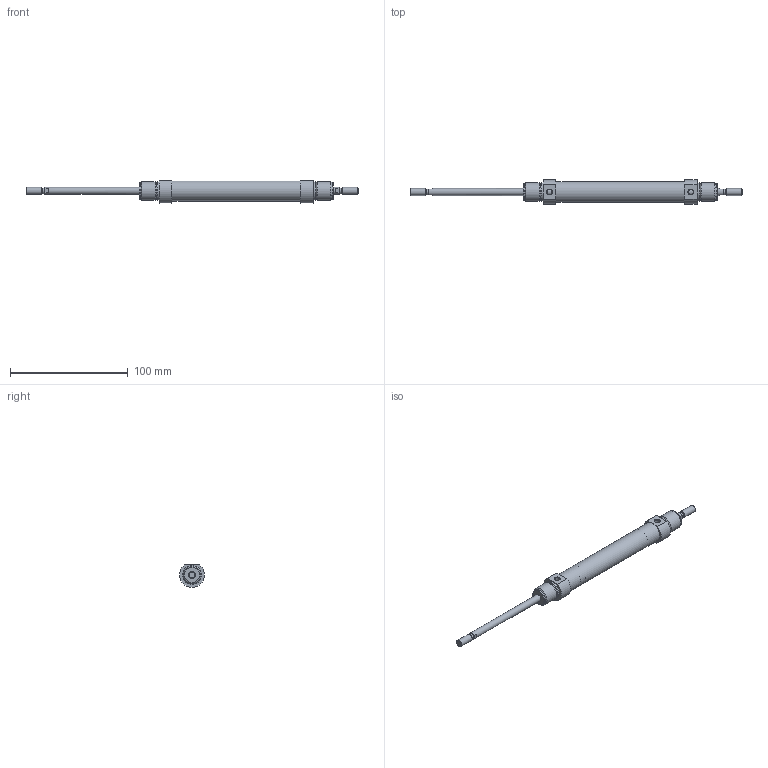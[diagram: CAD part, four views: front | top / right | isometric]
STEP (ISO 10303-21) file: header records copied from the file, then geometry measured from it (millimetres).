
FILE_DESCRIPTION( ( 'STEP AP203' ), '1' );
FILE_NAME( '//expscmdclustefs.cadenas.external/client_exchange/iodir/jobs/output/wkb68413043_no0/STEP/M101-016-0075-M__0__2_03.stp', ' ', ( ' ' ), ( ' ' ), 'PSStep 15.0.47', 'PARTsolutions', ' ' );
FILE_SCHEMA( ( 'CONFIG_CONTROL_DESIGN' ) );
Length unit declared in the file: millimetre
Products named in the file (3): M101-016-0075-M [0]; HI_M101-016-0075-M-[0]-z; HI_M101-016-0075-M-[0]-k
Assembly tree (2 placements, depth 2):
  M101-016-0075-M [0]
    HI_M101-016-0075-M-[0]-z
    HI_M101-016-0075-M-[0]-k
Bounding box: 282 x 20.94 x 19.09 mm (x, y, z)
Volume: 29546.7 mm3; surface area: 21869.8 mm2
Topology: 2 solids, 2 shells, 67 faces, 135 edges, 82 vertices
Faces by surface type: plane 28, cylinder 23, cone 14, torus 2
Full cylindrical faces by diameter (mm): 4.134 x2, 4.773 x2, 6 x6, 14.16 x4, 16 x6, 17.3 x1
Entity records: 1730 total; most frequent: CARTESIAN_POINT 334, DIRECTION 292, ORIENTED_EDGE 196, AXIS2_PLACEMENT_3D 132, EDGE_LOOP 116, EDGE_CURVE 98, FACE_OUTER_BOUND 90, VERTEX_POINT 78
